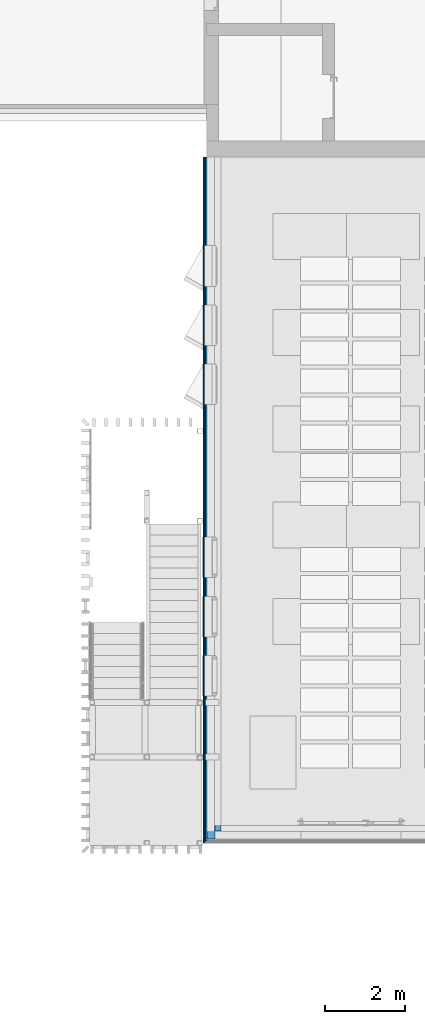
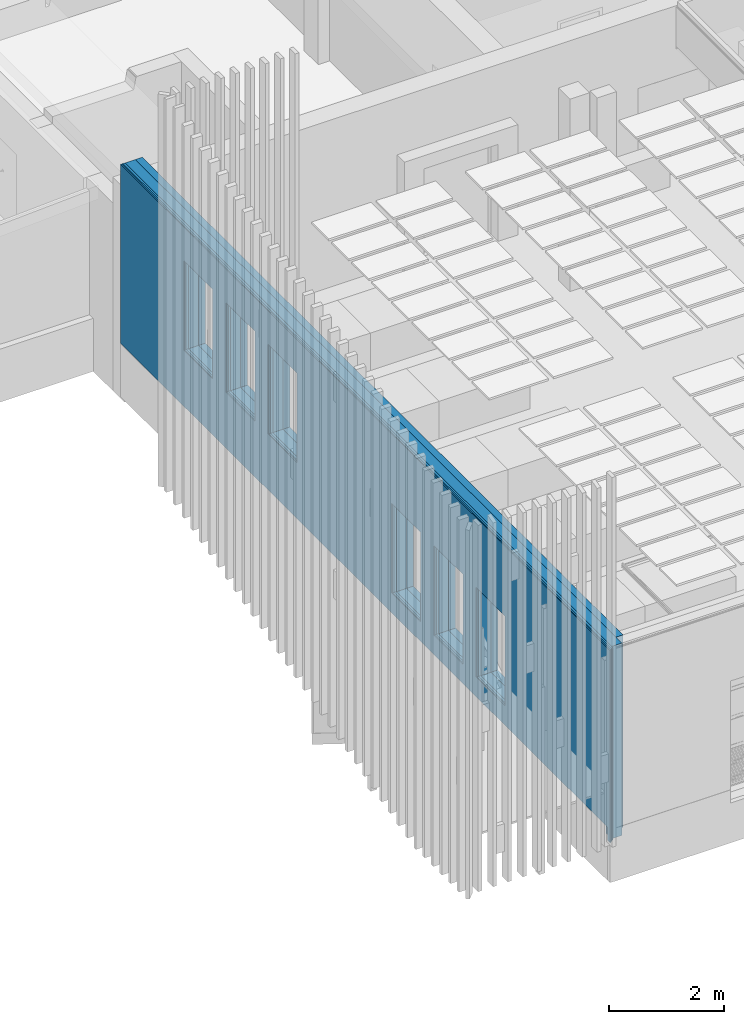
# One storey, part 175 of 301: 5 building element parts, 6 openings, 1 element without a shape of its own.
"""IFC2X3 building model written with IfcOpenShell, lengths in millimetres."""

from ifc_helpers import new_model, entity, si_unit, converted_unit, derived_unit, money_unit, direction, frame, origin_with_axes, place, context, subcontext, project, spatial, faceted_brep, material, type_object, element, aggregate, save


model = new_model("IFC2X3")

# Units and contexts
model_context = context("Model", 3, precision=0.01, world=origin_with_axes(), true_north=direction((0.0, 1.0)))
body_context = subcontext(model_context, "Body", "Model", "MODEL_VIEW")
ifc_project = project(units=[si_unit("LENGTHUNIT", "METRE", prefix="MILLI"), si_unit("AREAUNIT", "SQUARE_METRE"), si_unit("VOLUMEUNIT", "CUBIC_METRE"), converted_unit("PLANEANGLEUNIT", "DEGREE", entity("IfcPlaneAngleMeasure", 0.0174532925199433), si_unit("PLANEANGLEUNIT", "RADIAN"), dimensions=[0, 0, 0, 0, 0, 0, 0]), money_unit("EUR"), converted_unit("TIMEUNIT", "Year", entity("IfcTimeMeasure", 31557600.0), si_unit("TIMEUNIT", "SECOND"), dimensions=[0, 0, 1, 0, 0, 0, 0]), si_unit("MASSUNIT", "GRAM", prefix="KILO"), si_unit("THERMODYNAMICTEMPERATUREUNIT", "DEGREE_CELSIUS"), si_unit("LUMINOUSINTENSITYUNIT", "LUMEN"), si_unit("ENERGYUNIT", "JOULE", prefix="MEGA"), derived_unit("THERMALCONDUCTANCEUNIT", [(si_unit("POWERUNIT", "WATT"), 1), (si_unit("LENGTHUNIT", "METRE"), -1), (si_unit("THERMODYNAMICTEMPERATUREUNIT", "KELVIN"), -1)]), derived_unit("SPECIFICHEATCAPACITYUNIT", [(si_unit("ENERGYUNIT", "JOULE"), 1), (si_unit("MASSUNIT", "GRAM", prefix="KILO"), -1), (si_unit("THERMODYNAMICTEMPERATUREUNIT", "KELVIN"), -1)]), derived_unit("MASSDENSITYUNIT", [(si_unit("MASSUNIT", "GRAM", prefix="KILO"), 1), (si_unit("VOLUMEUNIT", "CUBIC_METRE"), -1)])], contexts=[model_context])

# Site, building, storey
site_placement = place(None, frame((0.0, 0.0, 8650.0), z_axis=(0.0, 0.0, 1.0), x_axis=(1.0, 0.0, 0.0)))
site = spatial("IfcSite", under=ifc_project, at=site_placement, Name="43301:001:0844", CompositionType="ELEMENT")
building_placement = place(site_placement, origin_with_axes())
building = spatial("IfcBuilding", under=site, at=building_placement, Name="Kuressaare Ametikooli tuulikute mehaanikute õppekorpus", CompositionType="ELEMENT")
storey_placement = place(building_placement, origin_with_axes())
storey = spatial("IfcBuildingStorey", under=building, at=storey_placement, Name="1.korrus", CompositionType="ELEMENT", Elevation=0.0)

# Wall, openings, building element parts
wall_type = type_object("IfcWallType", Name="VS1 437", PredefinedType="NOTDEFINED")
wall_placement = place(storey_placement, frame((88318.22664518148, 25783.06892395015, 0.0), z_axis=(0.0, 0.0, 1.0), x_axis=(0.0, -1.0, 0.0)))
wall = element("IfcWall", 1, at=wall_placement, inside=storey, type_object=wall_type, Name="Sisesein")
opening_1_placement = place(wall_placement, frame((2714.000000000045, 0.0, 1475.000000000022), z_axis=(0.0, 0.0, 1.0), x_axis=(1.0, 0.0, 0.0)))
element("IfcOpeningElement", 2, at=opening_1_placement, cuts=wall, Name="A-1g,SE", context=body_context, shape_type="Brep", body=[
    faceted_brep([(504.999999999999, -219.9999999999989, 0.0), (504.999999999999, -219.9999999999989, 1910.0), (504.999999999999, -438.0000000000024, 1910.0), (504.999999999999, -438.0000000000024, 0.0), (504.999999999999, 1.000000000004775, 0.0), (504.999999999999, 1.000000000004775, 1910.0), (-504.999999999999, -219.9999999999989, 1910.0), (-504.999999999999, -438.0000000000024, 1910.0), (-504.999999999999, 1.000000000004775, 1910.0), (-504.999999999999, -438.0000000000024, 0.0), (-504.999999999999, -219.9999999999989, 0.0), (-504.999999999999, 1.000000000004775, 0.0)], [[[0, 1, 2, 3]], [[1, 0, 4, 5]], [[6, 7, 2, 1, 5, 8]], [[7, 9, 3, 2]], [[0, 3, 9, 10, 11, 4]], [[5, 4, 11, 8]], [[6, 10, 9, 7]], [[10, 6, 8, 11]]]),
])
opening_2_placement = place(wall_placement, frame((5664.000000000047, 0.0, 1475.0), z_axis=(0.0, 0.0, 1.0), x_axis=(1.0, 0.0, 0.0)))
element("IfcOpeningElement", 3, at=opening_2_placement, cuts=wall, Name="AL-1,EI30", context=body_context, shape_type="Brep", body=[
    faceted_brep([(504.999999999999, -219.9999999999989, 0.0), (504.999999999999, -219.9999999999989, 1910.0), (504.999999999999, -438.0000000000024, 1910.0), (504.999999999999, -438.0000000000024, 0.0), (504.999999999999, 1.000000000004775, 0.0), (504.999999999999, 1.000000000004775, 1910.0), (-504.999999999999, -219.9999999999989, 1910.0), (-504.999999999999, -438.0000000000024, 1910.0), (-504.999999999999, 1.000000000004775, 1910.0), (-504.999999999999, -438.0000000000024, 0.0), (-504.999999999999, -219.9999999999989, 0.0), (-504.999999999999, 1.000000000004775, 0.0)], [[[0, 1, 2, 3]], [[1, 0, 4, 5]], [[6, 7, 2, 1, 5, 8]], [[7, 9, 3, 2]], [[0, 3, 9, 10, 11, 4]], [[5, 4, 11, 8]], [[6, 10, 9, 7]], [[10, 6, 8, 11]]]),
])
opening_3_placement = place(wall_placement, frame((4189.000000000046, 0.0, 1475.000000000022), z_axis=(0.0, 0.0, 1.0), x_axis=(1.0, 0.0, 0.0)))
element("IfcOpeningElement", 4, at=opening_3_placement, cuts=wall, Name="A-1g,SE", context=body_context, shape_type="Brep", body=[
    faceted_brep([(504.999999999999, -219.9999999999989, 0.0), (504.999999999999, -219.9999999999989, 1910.0), (504.999999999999, -438.0000000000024, 1910.0), (504.999999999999, -438.0000000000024, 0.0), (504.999999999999, 1.000000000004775, 0.0), (504.999999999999, 1.000000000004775, 1910.0), (-504.999999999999, -219.9999999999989, 1910.0), (-504.999999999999, -438.0000000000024, 1910.0), (-504.999999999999, 1.000000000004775, 1910.0), (-504.999999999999, -438.0000000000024, 0.0), (-504.999999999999, -219.9999999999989, 0.0), (-504.999999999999, 1.000000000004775, 0.0)], [[[0, 1, 2, 3]], [[1, 0, 4, 5]], [[6, 7, 2, 1, 5, 8]], [[7, 9, 3, 2]], [[0, 3, 9, 10, 11, 4]], [[5, 4, 11, 8]], [[6, 10, 9, 7]], [[10, 6, 8, 11]]]),
])
opening_4_placement = place(wall_placement, frame((9979.022048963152, 0.0, 700.0), z_axis=(0.0, 0.0, 1.0), x_axis=(1.0, 0.0, 0.0)))
element("IfcOpeningElement", 5, at=opening_4_placement, cuts=wall, Name="AL-1,EI30", context=body_context, shape_type="Brep", body=[
    faceted_brep([(505.0000000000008, -219.9999999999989, 0.0), (505.0000000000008, -219.9999999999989, 1910.0), (504.999999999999, -438.0000000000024, 1910.0), (504.999999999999, -438.0000000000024, 0.0), (505.0000000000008, 1.000000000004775, 0.0), (505.0000000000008, 1.000000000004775, 1910.0), (-504.999999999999, -219.9999999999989, 1910.0), (-504.999999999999, -438.0000000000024, 1910.0), (-504.999999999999, 1.000000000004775, 1910.0), (-504.999999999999, -438.0000000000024, 0.0), (-504.999999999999, -219.9999999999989, 0.0), (-504.999999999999, 1.000000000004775, 0.0)], [[[0, 1, 2, 3]], [[1, 0, 4, 5]], [[6, 7, 2, 1, 5, 8]], [[7, 9, 3, 2]], [[0, 3, 9, 10, 11, 4]], [[5, 4, 11, 8]], [[6, 10, 9, 7]], [[10, 6, 8, 11]]]),
])
opening_5_placement = place(wall_placement, frame((11454.02204896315, 0.0, 700.0), z_axis=(0.0, 0.0, 1.0), x_axis=(1.0, 0.0, 0.0)))
element("IfcOpeningElement", 6, at=opening_5_placement, cuts=wall, Name="AL-1,EI30", context=body_context, shape_type="Brep", body=[
    faceted_brep([(505.0000000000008, -219.9999999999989, 0.0), (505.0000000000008, -219.9999999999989, 1910.0), (505.0000000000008, -438.0000000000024, 1910.0), (505.0000000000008, -438.0000000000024, 0.0), (505.0000000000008, 1.000000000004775, 0.0), (505.0000000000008, 1.000000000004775, 1910.0), (-505.0000000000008, -219.9999999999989, 1910.0), (-505.0000000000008, -438.0000000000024, 1910.0), (-505.0000000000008, 1.000000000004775, 1910.0), (-505.0000000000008, -438.0000000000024, 0.0), (-505.0000000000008, -219.9999999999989, 0.0), (-505.0000000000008, 1.000000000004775, 0.0)], [[[0, 1, 2, 3]], [[1, 0, 4, 5]], [[6, 7, 2, 1, 5, 8]], [[7, 9, 3, 2]], [[0, 3, 9, 10, 11, 4]], [[5, 4, 11, 8]], [[6, 10, 9, 7]], [[10, 6, 8, 11]]]),
])
opening_6_placement = place(wall_placement, frame((12929.02204896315, 0.0, 700.0), z_axis=(0.0, 0.0, 1.0), x_axis=(1.0, 0.0, 0.0)))
element("IfcOpeningElement", 7, at=opening_6_placement, cuts=wall, Name="AL-1,EI30", context=body_context, shape_type="Brep", body=[
    faceted_brep([(505.0000000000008, -219.9999999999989, 0.0), (505.0000000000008, -219.9999999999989, 1910.0), (504.999999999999, -438.0000000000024, 1910.0), (504.999999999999, -438.0000000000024, 0.0), (505.0000000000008, 1.000000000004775, 0.0), (505.0000000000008, 1.000000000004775, 1910.0), (-505.0000000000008, -219.9999999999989, 1910.0), (-505.0000000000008, -438.0000000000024, 1910.0), (-505.0000000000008, 1.000000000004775, 1910.0), (-505.0000000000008, -438.0000000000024, 0.0), (-505.0000000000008, -219.9999999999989, 0.0), (-505.0000000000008, 1.000000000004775, 0.0)], [[[0, 1, 2, 3]], [[1, 0, 4, 5]], [[6, 7, 2, 1, 5, 8]], [[7, 9, 3, 2]], [[0, 3, 9, 10, 11, 4]], [[5, 4, 11, 8]], [[6, 10, 9, 7]], [[10, 6, 8, 11]]]),
])
ifc_material_1 = material(Name="Puit - CLT")
building_element_part_1_placement = place(wall_placement, origin_with_axes())
building_element_part_1 = element("IfcBuildingElementPart", 8, at=building_element_part_1_placement, material=ifc_material_1, Name="Puit - CLT", context=body_context, shape_type="Brep", body=[
    faceted_brep([(0.0, -140.0000000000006, 4100.0), (0.0, -140.0000000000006, 0.0), (16799.23043340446, -140.0000000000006, 0.0), (16799.23043340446, -140.0000000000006, 4100.0), (3219.000000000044, -140.0000000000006, 1475.000000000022), (2209.000000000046, -140.0000000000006, 1475.000000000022), (2209.000000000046, -140.0000000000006, 3385.000000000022), (3219.000000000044, -140.0000000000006, 3385.000000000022), (4694.000000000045, -140.0000000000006, 3385.000000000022), (4694.000000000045, -140.0000000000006, 1475.000000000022), (3684.000000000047, -140.0000000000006, 1475.000000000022), (3684.000000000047, -140.0000000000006, 3385.000000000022), (5159.000000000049, -140.0000000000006, 3385.0), (6169.000000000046, -140.0000000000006, 3385.0), (6169.000000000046, -140.0000000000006, 1475.0), (5159.000000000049, -140.0000000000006, 1475.0), (9474.022048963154, -140.0000000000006, 700.0), (9474.022048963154, -140.0000000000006, 2610.0), (10484.02204896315, -140.0000000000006, 2610.0), (10484.02204896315, -140.0000000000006, 700.0), (11959.02204896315, -140.0000000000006, 700.0), (10949.02204896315, -140.0000000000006, 700.0), (10949.02204896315, -140.0000000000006, 2610.0), (11959.02204896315, -140.0000000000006, 2610.0), (13434.02204896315, -140.0000000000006, 2610.0), (13434.02204896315, -140.0000000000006, 700.0), (12424.02204896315, -140.0000000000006, 700.0), (12424.02204896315, -140.0000000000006, 2610.0), (0.0, 0.0, 4100.0), (0.0, 0.0, 0.0), (16799.23043340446, 0.0, 0.0), (16799.23043340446, 0.0, 4100.0), (3219.000000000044, 0.0, 1475.000000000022), (2209.000000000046, 0.0, 1475.000000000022), (2209.000000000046, 0.0, 3385.000000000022), (3219.000000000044, 0.0, 3385.000000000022), (4694.000000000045, 0.0, 3385.000000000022), (4694.000000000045, 0.0, 1475.000000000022), (3684.000000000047, 0.0, 1475.000000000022), (3684.000000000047, 0.0, 3385.000000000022), (5159.000000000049, 0.0, 3385.0), (6169.000000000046, 0.0, 3385.0), (6169.000000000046, 0.0, 1475.0), (5159.000000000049, 0.0, 1475.0), (9474.022048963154, 0.0, 2610.0), (9474.022048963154, 0.0, 700.0), (10484.02204896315, 0.0, 2610.0), (10484.02204896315, 0.0, 700.0), (11959.02204896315, 0.0, 700.0), (10949.02204896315, 0.0, 700.0), (10949.02204896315, 0.0, 2610.0), (11959.02204896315, 0.0, 2610.0), (13434.02204896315, 0.0, 2610.0), (13434.02204896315, 0.0, 700.0), (12424.02204896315, 0.0, 700.0), (12424.02204896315, 0.0, 2610.0)], [[[0, 1, 2, 3], [4, 5, 6, 7], [8, 9, 10, 11], [12, 13, 14, 15], [16, 17, 18, 19], [20, 21, 22, 23], [24, 25, 26, 27]], [[1, 0, 28, 29]], [[1, 29, 30, 2]], [[31, 3, 2, 30]], [[28, 0, 3, 31]], [[32, 33, 5, 4]], [[33, 34, 6, 5]], [[34, 35, 7, 6]], [[35, 32, 4, 7]], [[8, 36, 37, 9]], [[9, 37, 38, 10]], [[10, 38, 39, 11]], [[11, 39, 36, 8]], [[13, 12, 40, 41]], [[14, 13, 41, 42]], [[15, 14, 42, 43]], [[12, 15, 43, 40]], [[44, 17, 16, 45]], [[46, 18, 17, 44]], [[47, 19, 18, 46]], [[45, 16, 19, 47]], [[48, 49, 21, 20]], [[49, 50, 22, 21]], [[50, 51, 23, 22]], [[51, 48, 20, 23]], [[24, 52, 53, 25]], [[25, 53, 54, 26]], [[26, 54, 55, 27]], [[27, 55, 52, 24]], [[29, 28, 31, 30], [32, 35, 34, 33], [38, 37, 36, 39], [40, 43, 42, 41], [46, 44, 45, 47], [48, 51, 50, 49], [54, 53, 52, 55]]]),
])
ifc_material_2 = material(Name="Soojustus - Mineraalvill jäik")
building_element_part_2_placement = place(wall_placement, origin_with_axes())
building_element_part_2 = element("IfcBuildingElementPart", 9, at=building_element_part_2_placement, material=ifc_material_2, Name="Soojustus - Mineraalvill jäik", context=body_context, shape_type="Brep", body=[
    faceted_brep([(0.0, -150.0000044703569, 300.0000000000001), (0.0, -344.9999999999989, 300.0000000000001), (0.0, -344.9999999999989, 4100.0), (0.0, -140.0000000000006, 4100.0), (0.0, -140.0000000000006, 0.0), (0.0, -150.0000044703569, 8.195646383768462e-06), (16809.23043787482, -150.0000044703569, 300.0000000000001), (16809.23043787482, -344.9999999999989, 300.0000000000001), (16809.23043787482, -344.9999999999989, 0.0), (17004.23043340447, -344.9999999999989, 0.0), (17004.23043340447, -344.9999999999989, 4100.0), (2209.000000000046, -344.9999999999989, 3385.000000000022), (3219.000000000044, -344.9999999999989, 3385.000000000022), (3219.000000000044, -344.9999999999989, 1475.000000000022), (2209.000000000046, -344.9999999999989, 1475.000000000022), (4694.000000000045, -344.9999999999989, 1475.000000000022), (3684.000000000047, -344.9999999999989, 1475.000000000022), (3684.000000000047, -344.9999999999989, 3385.000000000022), (4694.000000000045, -344.9999999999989, 3385.000000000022), (5159.000000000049, -344.9999999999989, 3385.0), (6169.000000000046, -344.9999999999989, 3385.0), (6169.000000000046, -344.9999999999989, 1475.0), (5159.000000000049, -344.9999999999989, 1475.0), (10484.02204896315, -344.9999999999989, 700.0), (9474.022048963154, -344.9999999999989, 700.0), (9474.022048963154, -344.9999999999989, 2610.0), (10484.02204896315, -344.9999999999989, 2610.0), (10949.02204896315, -344.9999999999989, 2610.0), (11959.02204896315, -344.9999999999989, 2610.0), (11959.02204896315, -344.9999999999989, 700.0), (10949.02204896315, -344.9999999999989, 700.0), (13434.02204896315, -344.9999999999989, 700.0), (12424.02204896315, -344.9999999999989, 700.0), (12424.02204896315, -344.9999999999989, 2610.0), (13434.02204896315, -344.9999999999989, 2610.0), (17004.23043340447, -140.0000000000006, 4100.0), (17004.23043340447, -140.0000000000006, 0.0), (3219.000000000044, -140.0000000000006, 3385.000000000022), (2209.000000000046, -140.0000000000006, 3385.000000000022), (2209.000000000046, -140.0000000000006, 1475.000000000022), (3219.000000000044, -140.0000000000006, 1475.000000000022), (3684.000000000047, -140.0000000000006, 1475.000000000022), (4694.000000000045, -140.0000000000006, 1475.000000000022), (4694.000000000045, -140.0000000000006, 3385.000000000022), (3684.000000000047, -140.0000000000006, 3385.000000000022), (6169.000000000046, -140.0000000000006, 3385.0), (5159.000000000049, -140.0000000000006, 3385.0), (5159.000000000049, -140.0000000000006, 1475.0), (6169.000000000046, -140.0000000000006, 1475.0), (9474.022048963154, -140.0000000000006, 700.0), (10484.02204896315, -140.0000000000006, 700.0), (10484.02204896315, -140.0000000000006, 2610.0), (9474.022048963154, -140.0000000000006, 2610.0), (11959.02204896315, -140.0000000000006, 2610.0), (10949.02204896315, -140.0000000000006, 2610.0), (10949.02204896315, -140.0000000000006, 700.0), (11959.02204896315, -140.0000000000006, 700.0), (12424.02204896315, -140.0000000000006, 700.0), (13434.02204896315, -140.0000000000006, 700.0), (13434.02204896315, -140.0000000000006, 2610.0), (12424.02204896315, -140.0000000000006, 2610.0), (16809.23043787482, -150.0000044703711, 0.0)], [[[0, 1, 2, 3, 4, 5]], [[1, 0, 6, 7]], [[7, 8, 9, 10, 2, 1], [11, 12, 13, 14], [15, 16, 17, 18], [19, 20, 21, 22], [23, 24, 25, 26], [27, 28, 29, 30], [31, 32, 33, 34]], [[10, 35, 3, 2]], [[35, 36, 4, 3], [37, 38, 39, 40], [41, 42, 43, 44], [45, 46, 47, 48], [49, 50, 51, 52], [53, 54, 55, 56], [57, 58, 59, 60]], [[61, 5, 4, 36, 9, 8]], [[0, 5, 61, 6]], [[61, 8, 7, 6]], [[9, 36, 35, 10]], [[38, 37, 12, 11]], [[40, 13, 12, 37]], [[39, 14, 13, 40]], [[39, 38, 11, 14]], [[15, 42, 41, 16]], [[17, 16, 41, 44]], [[18, 17, 44, 43]], [[18, 43, 42, 15]], [[46, 45, 20, 19]], [[48, 21, 20, 45]], [[47, 22, 21, 48]], [[47, 46, 19, 22]], [[23, 50, 49, 24]], [[25, 24, 49, 52]], [[26, 25, 52, 51]], [[26, 51, 50, 23]], [[54, 53, 28, 27]], [[56, 29, 28, 53]], [[55, 30, 29, 56]], [[55, 54, 27, 30]], [[31, 58, 57, 32]], [[33, 32, 57, 60]], [[34, 33, 60, 59]], [[34, 59, 58, 31]]]),
])
ifc_material_3 = material(Name="Air Space - Frame")
building_element_part_3_placement = place(wall_placement, origin_with_axes())
building_element_part_3 = element("IfcBuildingElementPart", 10, at=building_element_part_3_placement, material=ifc_material_3, Name="Air Space - Frame", context=body_context, shape_type="Brep", body=[
    faceted_brep([(16809.23043787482, -344.9999999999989, 0.0), (16809.23043787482, -344.9999999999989, 300.0000000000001), (0.0, -344.9999999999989, 300.0000000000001), (0.0, -344.9999999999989, 4100.0), (17048.23043340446, -344.9999999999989, 4100.0), (17048.23043340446, -344.9999999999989, 0.0), (3219.000000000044, -344.9999999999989, 1475.000000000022), (3219.000000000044, -344.9999999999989, 3385.000000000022), (2209.000000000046, -344.9999999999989, 3385.000000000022), (2209.000000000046, -344.9999999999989, 1475.000000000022), (3684.000000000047, -344.9999999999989, 1475.000000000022), (4694.000000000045, -344.9999999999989, 1475.000000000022), (4694.000000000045, -344.9999999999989, 3385.000000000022), (3684.000000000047, -344.9999999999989, 3385.000000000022), (5159.000000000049, -344.9999999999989, 3385.0), (5159.000000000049, -344.9999999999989, 1475.0), (6169.000000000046, -344.9999999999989, 1475.0), (6169.000000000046, -344.9999999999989, 3385.0), (10484.02204896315, -344.9999999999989, 2610.0), (9474.022048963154, -344.9999999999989, 2610.0), (9474.022048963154, -344.9999999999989, 700.0), (10484.02204896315, -344.9999999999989, 700.0), (11959.02204896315, -344.9999999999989, 700.0), (11959.02204896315, -344.9999999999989, 2610.0), (10949.02204896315, -344.9999999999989, 2610.0), (10949.02204896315, -344.9999999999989, 700.0), (12424.02204896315, -344.9999999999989, 700.0), (13434.02204896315, -344.9999999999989, 700.0), (13434.02204896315, -344.9999999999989, 2610.0), (12424.02204896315, -344.9999999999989, 2610.0), (16809.23043787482, -350.0000104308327, 0.0), (16809.23043787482, -350.0000104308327, 300.0000000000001), (0.0, -350.0000104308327, 300.0000000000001), (0.0, -389.0000015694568, 291.333332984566), (0.0, -388.9999999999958, 4100.0), (17048.23043340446, -388.9999999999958, 4100.0), (17048.23043340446, -388.9999999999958, 0.0), (17009.23043340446, -388.9999999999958, 0.0), (17009.23043340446, -350.0000000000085, 0.0), (3219.000000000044, -388.9999999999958, 1475.000000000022), (3219.000000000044, -388.9999999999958, 3385.000000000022), (2209.000000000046, -388.9999999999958, 3385.000000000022), (2209.000000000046, -388.9999999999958, 1475.000000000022), (4694.000000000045, -388.9999999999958, 1475.000000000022), (3684.000000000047, -388.9999999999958, 1475.000000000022), (4694.000000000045, -388.9999999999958, 3385.000000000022), (3684.000000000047, -388.9999999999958, 3385.000000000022), (5159.000000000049, -388.9999999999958, 3385.0), (5159.000000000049, -388.9999999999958, 1475.0), (6169.000000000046, -388.9999999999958, 1475.0), (6169.000000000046, -388.9999999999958, 3385.0), (10484.02204896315, -388.9999999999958, 2610.0), (9474.022048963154, -388.9999999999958, 2610.0), (9474.022048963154, -388.9999999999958, 700.0), (10484.02204896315, -388.9999999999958, 700.0), (11959.02204896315, -388.9999999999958, 700.0), (11959.02204896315, -388.9999999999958, 2610.0), (10949.02204896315, -388.9999999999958, 2610.0), (10949.02204896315, -388.9999999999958, 700.0), (13434.02204896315, -388.9999999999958, 700.0), (12424.02204896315, -388.9999999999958, 700.0), (13434.02204896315, -388.9999999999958, 2610.0), (12424.02204896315, -388.9999999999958, 2610.0), (17009.23043340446, -350.0000000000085, 300.0000000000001), (17009.23043340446, -388.9999999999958, 291.3333301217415)], [[[0, 1, 2, 3, 4, 5], [6, 7, 8, 9], [10, 11, 12, 13], [14, 15, 16, 17], [18, 19, 20, 21], [22, 23, 24, 25], [26, 27, 28, 29]], [[1, 0, 30, 31]], [[32, 2, 1, 31]], [[2, 32, 33, 34, 3]], [[3, 34, 35, 4]], [[4, 35, 36, 5]], [[30, 0, 5, 36, 37, 38]], [[7, 6, 39, 40]], [[8, 7, 40, 41]], [[9, 8, 41, 42]], [[6, 9, 42, 39]], [[43, 11, 10, 44]], [[45, 12, 11, 43]], [[46, 13, 12, 45]], [[44, 10, 13, 46]], [[47, 48, 15, 14]], [[48, 49, 16, 15]], [[49, 50, 17, 16]], [[50, 47, 14, 17]], [[18, 51, 52, 19]], [[19, 52, 53, 20]], [[20, 53, 54, 21]], [[21, 54, 51, 18]], [[23, 22, 55, 56]], [[24, 23, 56, 57]], [[25, 24, 57, 58]], [[22, 25, 58, 55]], [[59, 27, 26, 60]], [[61, 28, 27, 59]], [[62, 29, 28, 61]], [[60, 26, 29, 62]], [[31, 30, 38, 63]], [[32, 31, 63, 64, 33]], [[64, 37, 36, 35, 34, 33], [39, 42, 41, 40], [45, 43, 44, 46], [47, 50, 49, 48], [53, 52, 51, 54], [55, 58, 57, 56], [61, 59, 60, 62]], [[38, 37, 64, 63]]]),
])
building_element_part_4_placement = place(wall_placement, origin_with_axes())
building_element_part_4 = element("IfcBuildingElementPart", 11, at=building_element_part_4_placement, material=ifc_material_3, Name="Air Space - Frame", context=body_context, shape_type="Brep", body=[
    faceted_brep([(17009.23043340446, -388.9999999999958, 0.0), (17009.23043340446, -388.9999999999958, 291.3333301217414), (0.0, -388.9999999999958, 291.3333333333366), (0.0, -388.9999999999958, 4100.0), (17076.23043340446, -388.9999999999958, 4100.0), (17076.23043340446, -388.9999999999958, 0.0), (3219.000000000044, -388.9999999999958, 1475.000000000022), (3219.000000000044, -388.9999999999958, 3385.000000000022), (2209.000000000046, -388.9999999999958, 3385.000000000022), (2209.000000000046, -388.9999999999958, 1475.000000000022), (3684.000000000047, -388.9999999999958, 1475.000000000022), (4694.000000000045, -388.9999999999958, 1475.000000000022), (4694.000000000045, -388.9999999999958, 3385.000000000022), (3684.000000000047, -388.9999999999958, 3385.000000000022), (5159.000000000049, -388.9999999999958, 3385.0), (5159.000000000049, -388.9999999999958, 1475.0), (6169.000000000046, -388.9999999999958, 1475.0), (6169.000000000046, -388.9999999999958, 3385.0), (10484.02204896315, -388.9999999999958, 2610.0), (9474.022048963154, -388.9999999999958, 2610.0), (9474.022048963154, -388.9999999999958, 700.0), (10484.02204896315, -388.9999999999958, 700.0), (11959.02204896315, -388.9999999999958, 700.0), (11959.02204896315, -388.9999999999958, 2610.0), (10949.02204896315, -388.9999999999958, 2610.0), (10949.02204896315, -388.9999999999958, 700.0), (12424.02204896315, -388.9999999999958, 700.0), (13434.02204896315, -388.9999999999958, 700.0), (13434.02204896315, -388.9999999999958, 2610.0), (12424.02204896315, -388.9999999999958, 2610.0), (17009.23043340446, -417.0000000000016, 0.0), (17009.23043340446, -417.0000000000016, 285.1111055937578), (0.0, -417.0000015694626, 285.1111107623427), (0.0, -417.0000000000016, 4100.0), (17076.23043340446, -417.0000000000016, 4100.0), (17076.23043340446, -417.0000000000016, 0.0), (3219.000000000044, -417.0000000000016, 1475.000000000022), (3219.000000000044, -417.0000000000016, 3385.000000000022), (2209.000000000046, -417.0000000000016, 3385.000000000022), (2209.000000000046, -417.0000000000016, 1475.000000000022), (4694.000000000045, -417.0000000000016, 1475.000000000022), (3684.000000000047, -417.0000000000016, 1475.000000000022), (4694.000000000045, -417.0000000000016, 3385.000000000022), (3684.000000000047, -417.0000000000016, 3385.000000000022), (5159.000000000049, -417.0000000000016, 3385.0), (5159.000000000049, -417.0000000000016, 1475.0), (6169.000000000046, -417.0000000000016, 1475.0), (6169.000000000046, -417.0000000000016, 3385.0), (10484.02204896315, -417.0000000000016, 2610.0), (9474.022048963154, -417.0000000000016, 2610.0), (9474.022048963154, -417.0000000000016, 700.0), (10484.02204896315, -417.0000000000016, 700.0), (11959.02204896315, -417.0000000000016, 700.0), (11959.02204896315, -417.0000000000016, 2610.0), (10949.02204896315, -417.0000000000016, 2610.0), (10949.02204896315, -417.0000000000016, 700.0), (13434.02204896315, -417.0000000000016, 700.0), (12424.02204896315, -417.0000000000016, 700.0), (13434.02204896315, -417.0000000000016, 2610.0), (12424.02204896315, -417.0000000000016, 2610.0)], [[[0, 1, 2, 3, 4, 5], [6, 7, 8, 9], [10, 11, 12, 13], [14, 15, 16, 17], [18, 19, 20, 21], [22, 23, 24, 25], [26, 27, 28, 29]], [[1, 0, 30, 31]], [[32, 2, 1, 31]], [[2, 32, 33, 3]], [[3, 33, 34, 4]], [[4, 34, 35, 5]], [[30, 0, 5, 35]], [[7, 6, 36, 37]], [[8, 7, 37, 38]], [[9, 8, 38, 39]], [[6, 9, 39, 36]], [[40, 11, 10, 41]], [[42, 12, 11, 40]], [[43, 13, 12, 42]], [[41, 10, 13, 43]], [[44, 45, 15, 14]], [[45, 46, 16, 15]], [[46, 47, 17, 16]], [[47, 44, 14, 17]], [[18, 48, 49, 19]], [[19, 49, 50, 20]], [[20, 50, 51, 21]], [[21, 51, 48, 18]], [[23, 22, 52, 53]], [[24, 23, 53, 54]], [[25, 24, 54, 55]], [[22, 25, 55, 52]], [[56, 27, 26, 57]], [[58, 28, 27, 56]], [[59, 29, 28, 58]], [[57, 26, 29, 59]], [[31, 30, 35, 34, 33, 32], [36, 39, 38, 37], [42, 40, 41, 43], [44, 47, 46, 45], [50, 49, 48, 51], [52, 55, 54, 53], [58, 56, 57, 59]]]),
])
ifc_material_4 = material(Name="Puit - voodrilaud")
building_element_part_5_placement = place(wall_placement, origin_with_axes())
building_element_part_5 = element("IfcBuildingElementPart", 12, at=building_element_part_5_placement, material=ifc_material_4, Name="Puit - voodrilaud", context=body_context, shape_type="Brep", body=[
    faceted_brep([(17009.23043340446, -417.0000000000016, 0.0), (17009.23043340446, -417.0000000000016, 285.1111055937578), (0.0, -417.0000000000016, 285.1111111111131), (0.0, -417.0000000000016, 4100.0), (17096.23043340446, -417.0000000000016, 4100.0), (17096.23043340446, -417.0000000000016, 0.0), (3219.000000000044, -417.0000000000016, 1475.000000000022), (3219.000000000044, -417.0000000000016, 3385.000000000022), (2209.000000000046, -417.0000000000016, 3385.000000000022), (2209.000000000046, -417.0000000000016, 1475.000000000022), (3684.000000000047, -417.0000000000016, 1475.000000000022), (4694.000000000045, -417.0000000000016, 1475.000000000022), (4694.000000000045, -417.0000000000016, 3385.000000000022), (3684.000000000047, -417.0000000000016, 3385.000000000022), (5159.000000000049, -417.0000000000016, 3385.0), (5159.000000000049, -417.0000000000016, 1475.0), (6169.000000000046, -417.0000000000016, 1475.0), (6169.000000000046, -417.0000000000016, 3385.0), (10484.02204896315, -417.0000000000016, 2610.0), (9474.022048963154, -417.0000000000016, 2610.0), (9474.022048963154, -417.0000000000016, 700.0), (10484.02204896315, -417.0000000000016, 700.0), (11959.02204896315, -417.0000000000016, 700.0), (11959.02204896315, -417.0000000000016, 2610.0), (10949.02204896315, -417.0000000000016, 2610.0), (10949.02204896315, -417.0000000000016, 700.0), (12424.02204896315, -417.0000000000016, 700.0), (13434.02204896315, -417.0000000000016, 700.0), (13434.02204896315, -417.0000000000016, 2610.0), (12424.02204896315, -417.0000000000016, 2610.0), (17009.23043340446, -436.9999999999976, 0.0), (17009.23043340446, -436.9999999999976, 280.6666595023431), (0.0, -437.0000015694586, 280.6666663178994), (0.0, -436.9999999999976, 4100.0), (17096.23043340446, -436.9999999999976, 4100.0), (17096.23043340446, -436.9999999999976, 0.0), (3219.000000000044, -436.9999999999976, 1475.000000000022), (3219.000000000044, -436.9999999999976, 3385.000000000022), (2209.000000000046, -436.9999999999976, 3385.000000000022), (2209.000000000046, -436.9999999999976, 1475.000000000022), (4694.000000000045, -436.9999999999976, 1475.000000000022), (3684.000000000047, -436.9999999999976, 1475.000000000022), (4694.000000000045, -436.9999999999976, 3385.000000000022), (3684.000000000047, -436.9999999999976, 3385.000000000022), (5159.000000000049, -436.9999999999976, 3385.0), (5159.000000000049, -436.9999999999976, 1475.0), (6169.000000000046, -436.9999999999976, 1475.0), (6169.000000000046, -436.9999999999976, 3385.0), (10484.02204896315, -436.9999999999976, 2610.0), (9474.022048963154, -436.9999999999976, 2610.0), (9474.022048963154, -436.9999999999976, 700.0), (10484.02204896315, -436.9999999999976, 700.0), (11959.02204896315, -436.9999999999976, 700.0), (11959.02204896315, -436.9999999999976, 2610.0), (10949.02204896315, -436.9999999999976, 2610.0), (10949.02204896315, -436.9999999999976, 700.0), (13434.02204896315, -436.9999999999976, 700.0), (12424.02204896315, -436.9999999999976, 700.0), (13434.02204896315, -436.9999999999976, 2610.0), (12424.02204896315, -436.9999999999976, 2610.0)], [[[0, 1, 2, 3, 4, 5], [6, 7, 8, 9], [10, 11, 12, 13], [14, 15, 16, 17], [18, 19, 20, 21], [22, 23, 24, 25], [26, 27, 28, 29]], [[1, 0, 30, 31]], [[32, 2, 1, 31]], [[2, 32, 33, 3]], [[3, 33, 34, 4]], [[4, 34, 35, 5]], [[30, 0, 5, 35]], [[7, 6, 36, 37]], [[8, 7, 37, 38]], [[9, 8, 38, 39]], [[6, 9, 39, 36]], [[40, 11, 10, 41]], [[42, 12, 11, 40]], [[43, 13, 12, 42]], [[41, 10, 13, 43]], [[44, 45, 15, 14]], [[45, 46, 16, 15]], [[46, 47, 17, 16]], [[47, 44, 14, 17]], [[18, 48, 49, 19]], [[19, 49, 50, 20]], [[20, 50, 51, 21]], [[21, 51, 48, 18]], [[23, 22, 52, 53]], [[24, 23, 53, 54]], [[25, 24, 54, 55]], [[22, 25, 55, 52]], [[56, 27, 26, 57]], [[58, 28, 27, 56]], [[59, 29, 28, 58]], [[57, 26, 29, 59]], [[31, 30, 35, 34, 33, 32], [36, 39, 38, 37], [42, 40, 41, 43], [44, 47, 46, 45], [50, 49, 48, 51], [52, 55, 54, 53], [58, 56, 57, 59]]]),
])
aggregate(wall, [building_element_part_1, building_element_part_2, building_element_part_3, building_element_part_4, building_element_part_5])

save(model, "model.ifc")
